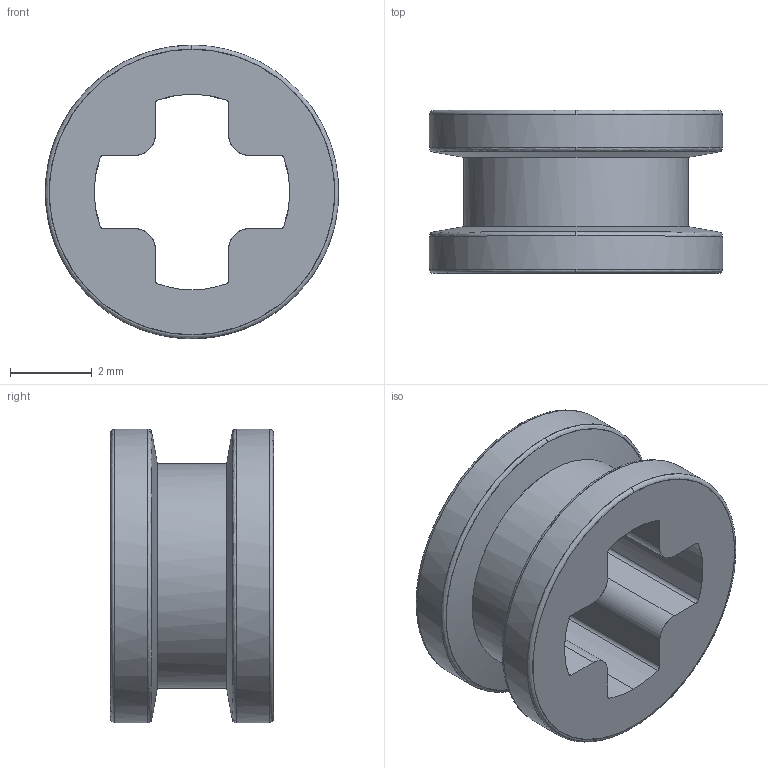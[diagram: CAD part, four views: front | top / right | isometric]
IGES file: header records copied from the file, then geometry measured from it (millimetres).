
Start section: C
Global section: file name: ClGray_4211573_JCA.iges; native system: By Siemens PLM Incorporated; preprocessor: XPlus GENERIC/IGES 26.1.183; author: Author; organization: Title; date: 20250721.235106; units: millimetre
Bounding box: 7.19 x 4 x 7.2 mm (x, y, z)
Surface area: 227.7 mm2 (no closed solid volume)
Topology: 0 solids, 0 shells, 36 faces, 208 edges, 208 vertices
Faces by surface type: bspline 36
